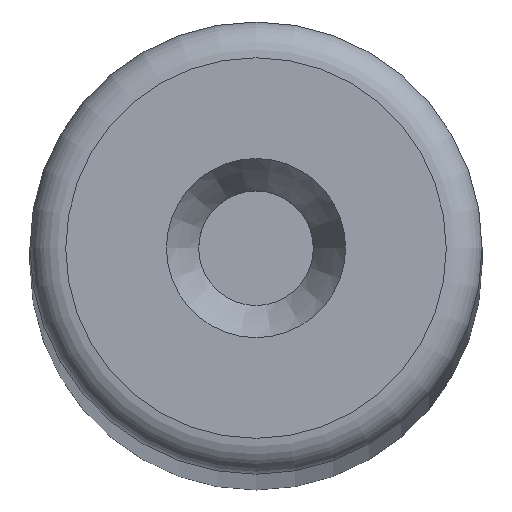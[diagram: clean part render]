
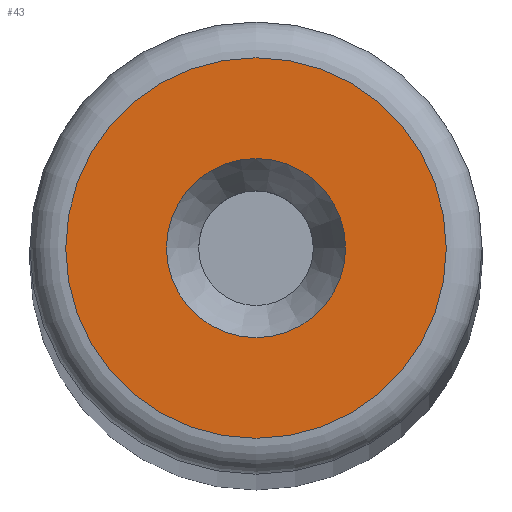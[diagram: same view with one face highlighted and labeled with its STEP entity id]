
A CAD part, top view. The second image highlights one B-rep face of the part: STEP entity #43.
In plain terms, the highlighted planar face has unit normal (0, 0, 1).
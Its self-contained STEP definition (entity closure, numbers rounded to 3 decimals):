
#43=ADVANCED_FACE('',(#58,#59),#54,.T.);
#54=PLANE('',#149);
#58=FACE_BOUND('',#76,.T.);
#59=FACE_BOUND('',#77,.T.);
#76=EDGE_LOOP('',(#96));
#77=EDGE_LOOP('',(#97));
#96=ORIENTED_EDGE('',*,*,#126,.T.);
#97=ORIENTED_EDGE('',*,*,#127,.F.);
#116=VERTEX_POINT('',#214);
#117=VERTEX_POINT('',#216);
#126=EDGE_CURVE('',#116,#116,#136,.T.);
#127=EDGE_CURVE('',#117,#117,#137,.T.);
#136=CIRCLE('',#147,2.655);
#137=CIRCLE('',#148,1.25);
#147=AXIS2_PLACEMENT_3D('',#213,#170,#171);
#148=AXIS2_PLACEMENT_3D('',#215,#172,#173);
#149=AXIS2_PLACEMENT_3D('',#217,#174,#175);
#170=DIRECTION('',(0.,0.,1.));
#171=DIRECTION('',(1.,0.,0.));
#172=DIRECTION('',(0.,0.,1.));
#173=DIRECTION('',(1.,0.,0.));
#174=DIRECTION('',(0.,0.,1.));
#175=DIRECTION('',(1.,0.,0.));
#213=CARTESIAN_POINT('',(0.,0.,127.));
#214=CARTESIAN_POINT('',(2.655,0.,127.));
#215=CARTESIAN_POINT('',(0.,0.,127.));
#216=CARTESIAN_POINT('',(1.25,0.,127.));
#217=CARTESIAN_POINT('',(0.,0.,127.));
